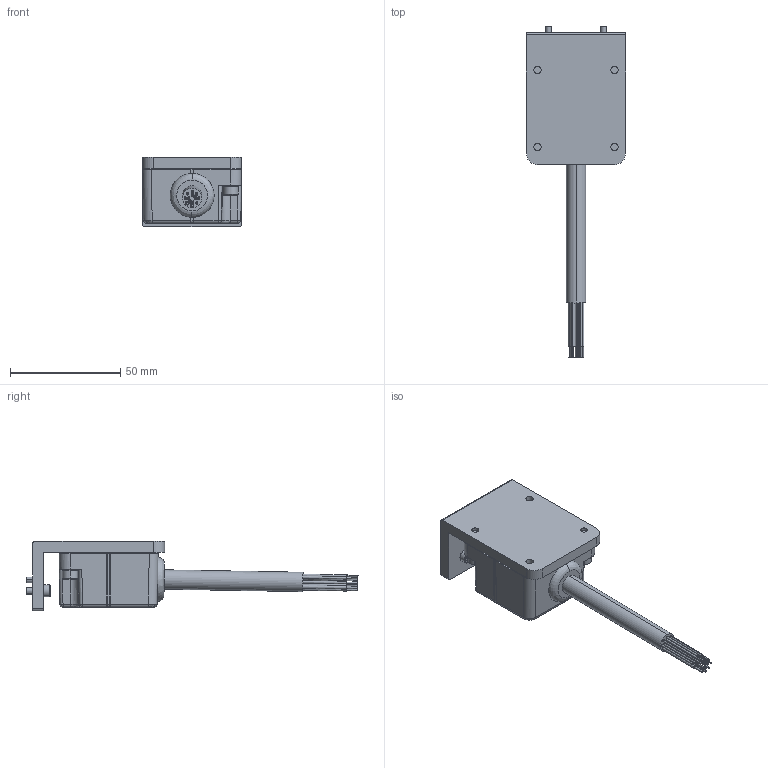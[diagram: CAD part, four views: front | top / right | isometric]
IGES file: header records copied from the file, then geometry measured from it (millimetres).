
Start section: 3D InterOp IGES (v. 2022 1.0.0), Spatial Corp. Copyright (c) 1999-2020.
Global section: file name: KHB-7RS-NN12,NP12_ver1.igs; native system: Spatial Corp.; preprocessor: 3D InterOp GENERIC/IGES 3.0; author: Noname; organization: Noname; date: 20260427.092901; units: millimetre
Bounding box: 45 x 150.84 x 31.5 mm (x, y, z)
Surface area: 21005 mm2 (no closed solid volume)
Topology: 0 solids, 0 shells, 331 faces, 1532 edges, 1532 vertices
Faces by surface type: revolution 198, extrusion 117, bspline 16
